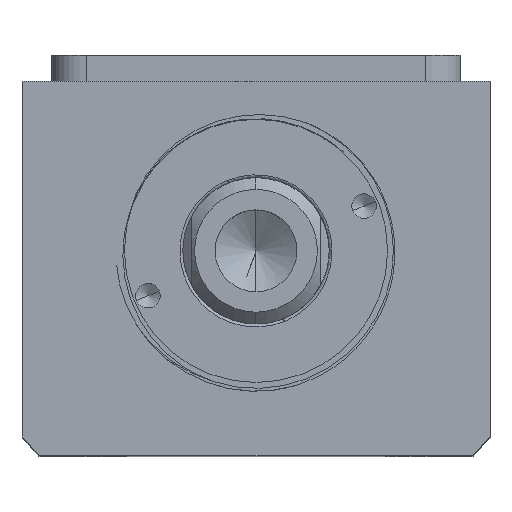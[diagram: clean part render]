
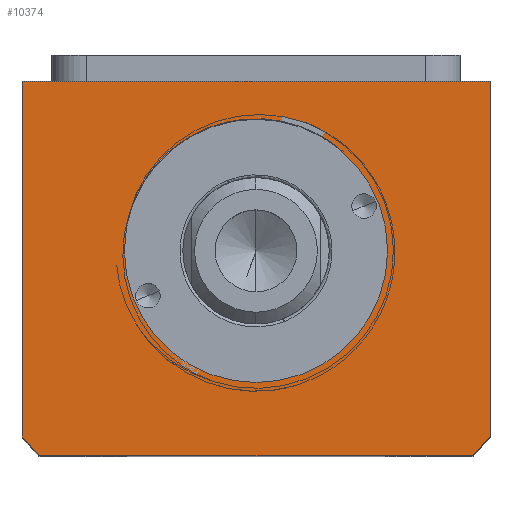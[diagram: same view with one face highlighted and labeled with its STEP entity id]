
A CAD part, top view. The second image highlights one B-rep face of the part: STEP entity #10374.
In plain terms, the highlighted planar face has unit normal (0, 0, 1).
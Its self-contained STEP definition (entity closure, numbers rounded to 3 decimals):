
#67 = EDGE_CURVE ( 'NONE', #3146, #5911, #1314, .T. ) ;
#240 = VECTOR ( 'NONE', #1292, 1000. ) ;
#274 = CIRCLE ( 'NONE', #10447, 51. ) ;
#293 = VERTEX_POINT ( 'NONE', #10021 ) ;
#505 = VERTEX_POINT ( 'NONE', #1466 ) ;
#536 = DIRECTION ( 'NONE',  ( 0., 0., 1. ) ) ;
#547 = AXIS2_PLACEMENT_3D ( 'NONE', #3035, #8716, #3855 ) ;
#644 = DIRECTION ( 'NONE',  ( 1., 0., 0. ) ) ;
#762 = CARTESIAN_POINT ( 'NONE',  ( -40., -11.507, 105. ) ) ;
#818 = VERTEX_POINT ( 'NONE', #7524 ) ;
#827 = DIRECTION ( 'NONE',  ( 0., 0., 1. ) ) ;
#1292 = DIRECTION ( 'NONE',  ( 0., 1., 0. ) ) ;
#1314 = CIRCLE ( 'NONE', #10537, 22.5 ) ;
#1326 = CARTESIAN_POINT ( 'NONE',  ( 40., -11.507, 105. ) ) ;
#1388 = VECTOR ( 'NONE', #3223, 1000. ) ;
#1466 = CARTESIAN_POINT ( 'NONE',  ( 40., -11.507, 105. ) ) ;
#1509 = VERTEX_POINT ( 'NONE', #9888 ) ;
#1527 = CIRCLE ( 'NONE', #547, 22.5 ) ;
#1587 = ORIENTED_EDGE ( 'NONE', *, *, #8853, .T. ) ;
#1618 = LINE ( 'NONE', #2130, #5961 ) ;
#2130 = CARTESIAN_POINT ( 'NONE',  ( -40., -11.507, 105. ) ) ;
#2133 = LINE ( 'NONE', #762, #1388 ) ;
#2379 = LINE ( 'NONE', #1326, #240 ) ;
#2488 = CARTESIAN_POINT ( 'NONE',  ( 0., -40.507, 105. ) ) ;
#2518 = DIRECTION ( 'NONE',  ( 1., 0., 0. ) ) ;
#2685 = EDGE_CURVE ( 'NONE', #293, #8296, #6955, .T. ) ;
#3035 = CARTESIAN_POINT ( 'NONE',  ( 0., -40.507, 105. ) ) ;
#3146 = VERTEX_POINT ( 'NONE', #4131 ) ;
#3223 = DIRECTION ( 'NONE',  ( 0., -1., 0. ) ) ;
#3787 = ORIENTED_EDGE ( 'NONE', *, *, #4594, .T. ) ;
#3855 = DIRECTION ( 'NONE',  ( 1., 0., 0. ) ) ;
#3882 = EDGE_LOOP ( 'NONE', ( #5627, #6248 ) ) ;
#3933 = VERTEX_POINT ( 'NONE', #4178 ) ;
#4131 = CARTESIAN_POINT ( 'NONE',  ( -22.5, -40.507, 105. ) ) ;
#4178 = CARTESIAN_POINT ( 'NONE',  ( -40., -11.507, 105. ) ) ;
#4346 = CARTESIAN_POINT ( 'NONE',  ( 0., -40.507, 105. ) ) ;
#4400 = DIRECTION ( 'NONE',  ( 1., 0., 0. ) ) ;
#4502 = EDGE_CURVE ( 'NONE', #1509, #505, #2379, .T. ) ;
#4594 = EDGE_CURVE ( 'NONE', #505, #3933, #1618, .T. ) ;
#5170 = DIRECTION ( 'NONE',  ( 1., 0., 0. ) ) ;
#5179 = ORIENTED_EDGE ( 'NONE', *, *, #8433, .T. ) ;
#5231 = FACE_BOUND ( 'NONE', #3882, .T. ) ;
#5627 = ORIENTED_EDGE ( 'NONE', *, *, #9213, .F. ) ;
#5816 = CARTESIAN_POINT ( 'NONE',  ( -37.094, -75.507, 105. ) ) ;
#5911 = VERTEX_POINT ( 'NONE', #10256 ) ;
#5945 = AXIS2_PLACEMENT_3D ( 'NONE', #8616, #536, #6209 ) ;
#5961 = VECTOR ( 'NONE', #7831, 1000. ) ;
#6209 = DIRECTION ( 'NONE',  ( 1., 0., 0. ) ) ;
#6248 = ORIENTED_EDGE ( 'NONE', *, *, #67, .F. ) ;
#6955 = CIRCLE ( 'NONE', #9309, 51. ) ;
#6991 = PLANE ( 'NONE',  #5945 ) ;
#7137 = LINE ( 'NONE', #10122, #9320 ) ;
#7139 = EDGE_CURVE ( 'NONE', #3933, #293, #2133, .T. ) ;
#7365 = CARTESIAN_POINT ( 'NONE',  ( 0., -40.507, 105. ) ) ;
#7524 = CARTESIAN_POINT ( 'NONE',  ( 37.094, -75.507, 105. ) ) ;
#7578 = ORIENTED_EDGE ( 'NONE', *, *, #7139, .T. ) ;
#7831 = DIRECTION ( 'NONE',  ( -1., 0., 0. ) ) ;
#8296 = VERTEX_POINT ( 'NONE', #5816 ) ;
#8433 = EDGE_CURVE ( 'NONE', #818, #1509, #274, .T. ) ;
#8616 = CARTESIAN_POINT ( 'NONE',  ( 0., 0., 105. ) ) ;
#8716 = DIRECTION ( 'NONE',  ( 0., 0., 1. ) ) ;
#8853 = EDGE_CURVE ( 'NONE', #8296, #818, #7137, .T. ) ;
#9186 = ORIENTED_EDGE ( 'NONE', *, *, #4502, .T. ) ;
#9213 = EDGE_CURVE ( 'NONE', #5911, #3146, #1527, .T. ) ;
#9309 = AXIS2_PLACEMENT_3D ( 'NONE', #7365, #827, #2518 ) ;
#9320 = VECTOR ( 'NONE', #4400, 1000. ) ;
#9548 = EDGE_LOOP ( 'NONE', ( #7578, #9777, #1587, #5179, #9186, #3787 ) ) ;
#9551 = FACE_OUTER_BOUND ( 'NONE', #9548, .T. ) ;
#9622 = DIRECTION ( 'NONE',  ( 0., 0., 1. ) ) ;
#9777 = ORIENTED_EDGE ( 'NONE', *, *, #2685, .T. ) ;
#9888 = CARTESIAN_POINT ( 'NONE',  ( 40., -72.145, 105. ) ) ;
#10021 = CARTESIAN_POINT ( 'NONE',  ( -40., -72.145, 105. ) ) ;
#10053 = DIRECTION ( 'NONE',  ( 0., 0., 1. ) ) ;
#10122 = CARTESIAN_POINT ( 'NONE',  ( -40., -75.507, 105. ) ) ;
#10256 = CARTESIAN_POINT ( 'NONE',  ( 22.5, -40.507, 105. ) ) ;
#10374 = ADVANCED_FACE ( 'NONE', ( #5231, #9551 ), #6991, .T. ) ;
#10447 = AXIS2_PLACEMENT_3D ( 'NONE', #4346, #10053, #5170 ) ;
#10537 = AXIS2_PLACEMENT_3D ( 'NONE', #2488, #9622, #644 ) ;
